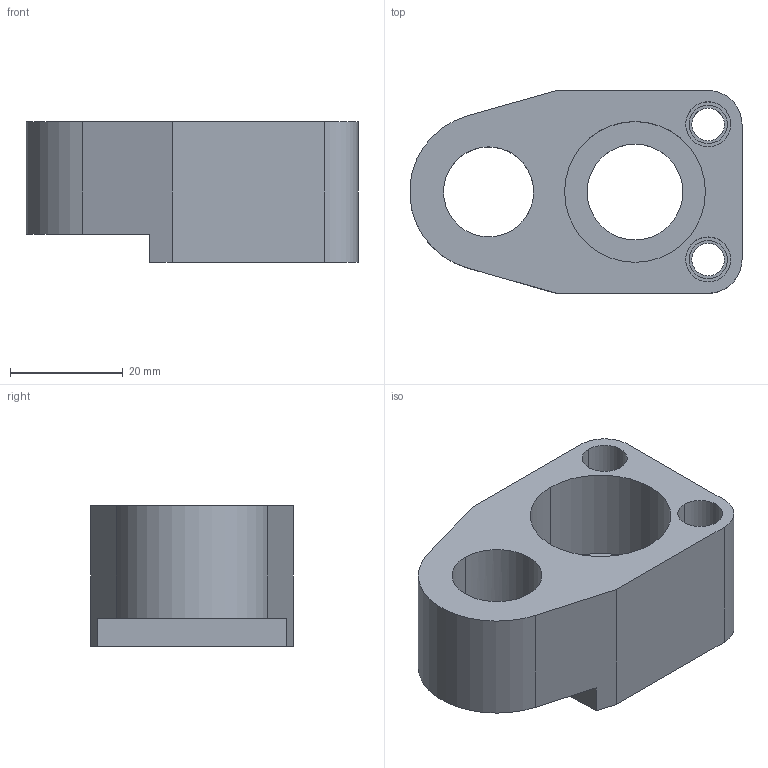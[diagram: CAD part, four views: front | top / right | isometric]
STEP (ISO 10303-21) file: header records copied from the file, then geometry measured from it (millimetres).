
FILE_DESCRIPTION(/* description */ (''),/* implementation_level */ '2;1');
FILE_NAME(/* name */ '3d_tp-fsn16_05675_r00.stp',/* time_stamp */ '2011-01-10T14:08:59+09:00',/* author */ ('MISUMI'),/* organization */ (''),/* preprocessor_version */ 'ST-DEVELOPER v11',/* originating_system */ 'UGS - NX 5.0',/* authorisation */ '');
FILE_SCHEMA (('CONFIG_CONTROL_DESIGN'));
Length unit declared in the file: millimetre
Products named in the file (1): 3d_tp-fsn16_05675_r00
Bounding box: 58.95 x 36 x 25 mm (x, y, z)
Volume: 27824.4 mm3; surface area: 10662.1 mm2
Topology: 1 solids, 1 shells, 37 faces, 92 edges, 61 vertices
Faces by surface type: cylinder 21, plane 14, cone 2
Entity records: 1228 total; most frequent: DIRECTION 212, CARTESIAN_POINT 196, ORIENTED_EDGE 184, EDGE_CURVE 92, AXIS2_PLACEMENT_3D 83, VERTEX_POINT 61, EDGE_LOOP 49, LINE 46
